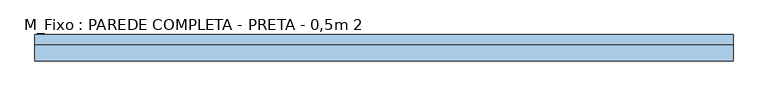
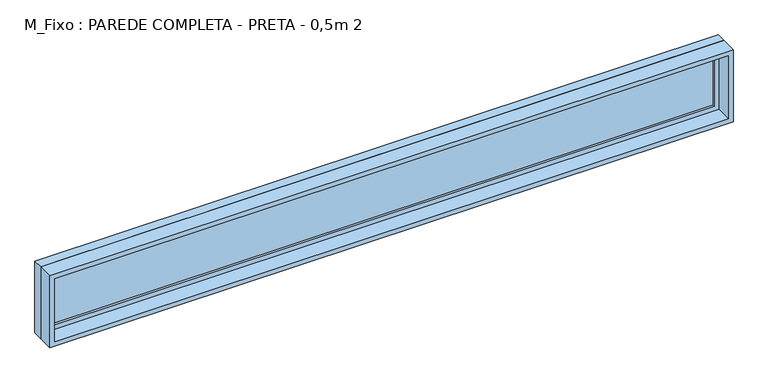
"""IFC4 building model written with IfcOpenShell, lengths in millimetres: window geometry, M_Fixo : PAREDE COMPLETA - PRETA - 0,5m 2."""

from ifc_helpers import new_model, si_unit, frame, origin, place, context, project, spatial, polyline, outline, extrude, source, transform, mapped, element, save


def m_fixo_parede_completa_preta_0_5m_2_7aad5a8b(model_context):
    return source(origin(), model_context, "Body", "SweptSolid", [
        extrude(outline(polyline([(-2187.0, 62.0), (2187.0, 62.0), (2187.0, 50.0), (-2187.0, 50.0), (-2187.0, 62.0)])), frame((0.0, 0.0, 1563.0), z_axis=(0.0, 0.0, 1.0), x_axis=(1.0, 0.0, 0.0)), (0.0, 0.0, 1.0), 374.0),
        extrude(outline(polyline([(1981.0, -2231.0), (1519.0, -2231.0), (1519.0, 2231.0), (1981.0, 2231.0), (1981.0, -2231.0)]), holes=[polyline([(1937.0, -2187.0), (1937.0, 2187.0), (1563.0, 2187.0), (1563.0, -2187.0), (1937.0, -2187.0)])]), frame((0.0, 34.0, 0.0), z_axis=(0.0, 1.0, 0.0), x_axis=(0.0, 0.0, 1.0)), (0.0, 0.0, 1.0), 44.0),
        extrude(outline(polyline([(2000.0, -2250.0), (1500.0, -2250.0), (1500.0, 2250.0), (2000.0, 2250.0), (2000.0, -2250.0)]), holes=[polyline([(1981.0, -2231.0), (1981.0, 2231.0), (1519.0, 2231.0), (1519.0, -2231.0), (1981.0, -2231.0)])]), frame((0.0, 34.0, 0.0), z_axis=(0.0, 1.0, 0.0), x_axis=(0.0, 0.0, 1.0)), (0.0, 0.0, 1.0), 64.0),
        extrude(outline(polyline([(2000.0, -2250.0), (1500.0, -2250.0), (1500.0, 2250.0), (2000.0, 2250.0), (2000.0, -2250.0)]), holes=[polyline([(1968.0, -2218.0), (1968.0, 2218.0), (1532.0, 2218.0), (1532.0, -2218.0), (1968.0, -2218.0)])]), frame((0.0, -72.0, 0.0), z_axis=(0.0, 1.0, 0.0), x_axis=(0.0, 0.0, 1.0)), (0.0, 0.0, 1.0), 106.0),
    ])


if __name__ == "__main__":
    model = new_model("IFC4")
    model_context = context("Model", 3, world=origin())
    ifc_project = project(units=[si_unit("LENGTHUNIT", "METRE", prefix="MILLI")], contexts=[model_context])
    site = spatial("IfcSite", under=ifc_project)
    building = spatial("IfcBuilding", under=site)
    placement = place(None, origin())
    m_fixo_parede_completa_preta_0_5m_2_shape = m_fixo_parede_completa_preta_0_5m_2_7aad5a8b(model_context)
    element("IfcWindow", 1, ObjectType="M_Fixo : PAREDE COMPLETA - PRETA - 0,5m 2", at=placement, inside=building, context=model_context, shape_type="MappedRepresentation", body=[
        mapped(m_fixo_parede_completa_preta_0_5m_2_shape, transform((0.0, 0.0, 0.0), x_axis=(1.0, 0.0, 0.0), y_axis=(0.0, 1.0, 0.0), z_axis=(0.0, 0.0, 1.0))),
    ])
    save(model, "model.ifc")
